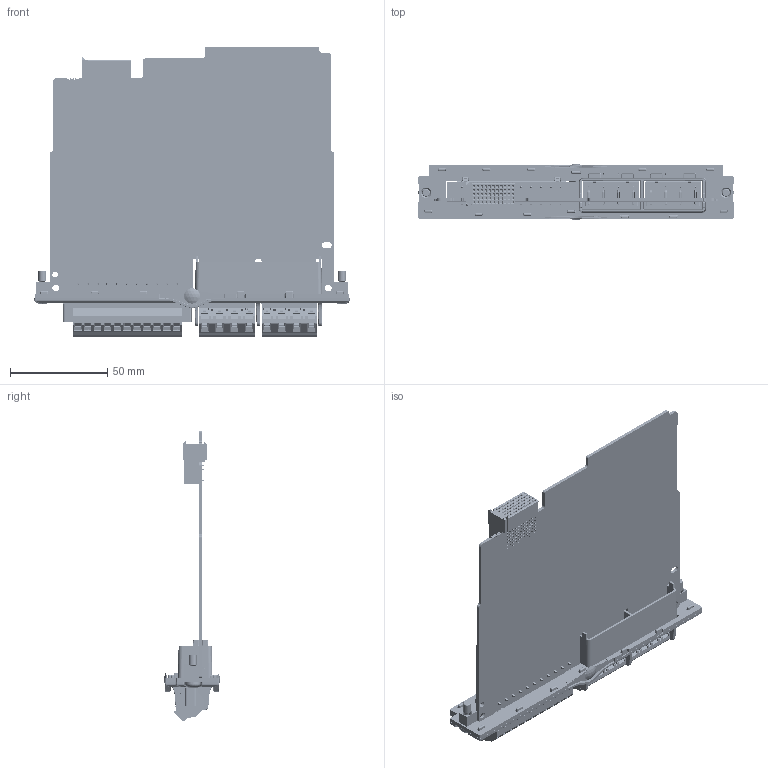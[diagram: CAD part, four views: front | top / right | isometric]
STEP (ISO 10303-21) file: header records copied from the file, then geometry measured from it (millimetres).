
FILE_DESCRIPTION(/* description */ (''),/* implementation_level */ '2;1');
FILE_NAME(/* name */ 'ACM3.1_3D CAD_20250228.stp',/* time_stamp */ '2025-02-28T09:25:29+01:00',/* author */ ('DSP'),/* organization */ (''),/* preprocessor_version */ 'ST-DEVELOPER v19.2',/* originating_system */ 'Autodesk Inventor 2023',/* authorisation */ '');
FILE_SCHEMA (('AUTOMOTIVE_DESIGN { 1 0 10303 214 3 1 1 }'));
Products named in the file (1): 203460xxxx_ACM3.1_Simplify_1
Bounding box: 162 x 28.71 x 149.2 mm (x, y, z)
Volume: 74825.6 mm3; surface area: 86638.2 mm2
Topology: 1 solids, 5 shells, 8185 faces, 22770 edges, 14444 vertices
Faces by surface type: plane 4966, cylinder 2017, bspline 679, cone 266, torus 181, sphere 76
Full cylindrical faces by diameter (mm): 0.434 x1, 0.457 x1, 0.8 x4, 2.3 x16, 2.459 x2, 2.5 x10, 2.6 x8, 3 x50, 3.05 x1, 3.242 x2, 3.783 x11, 3.8 x2, 3.9 x10, 4 x13, 4.4 x2, 5.5 x2, 8 x2
Entity records: 316085 total; most frequent: CARTESIAN_POINT 99793, ORIENTED_EDGE 45208, DIRECTION 41022, EDGE_CURVE 22642, LINE 15396, VECTOR 15396, VERTEX_POINT 14444, AXIS2_PLACEMENT_3D 12813
